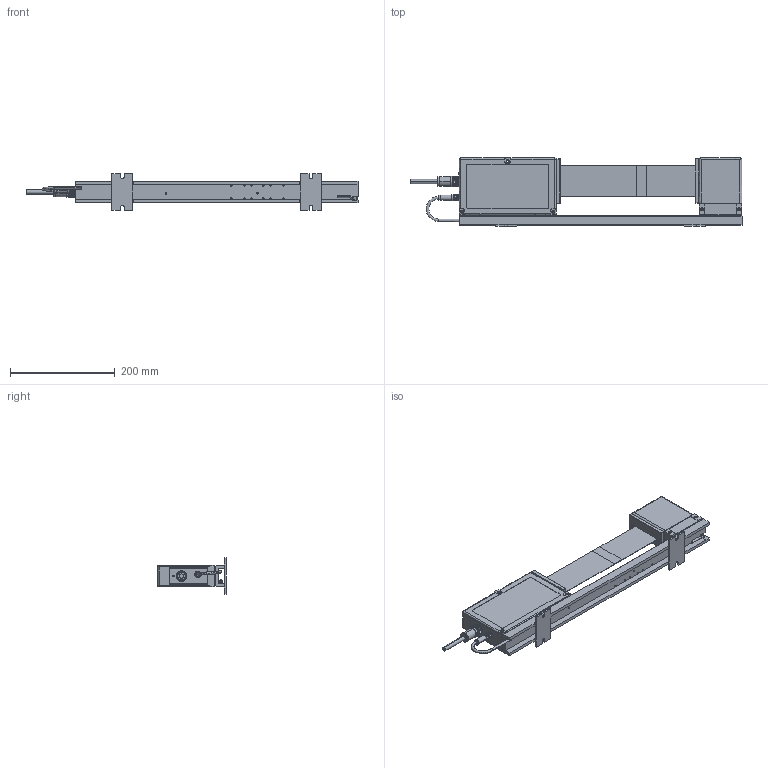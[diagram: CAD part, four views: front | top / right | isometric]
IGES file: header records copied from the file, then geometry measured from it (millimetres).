
Start section: Elysium IGES Interface
Global section: file name: 61HX:\users\kw_rdg\imaizumir\sagyou\LSM\00. 各商品\HP用\506S.igs; native system: Creo Elements/Direct Modeling 18.1C  24-Feb-2013; preprocessor: Creo Element/Direct IGES_3D V2.2; author: Unknown; organization: Unknown; date: 20150305.163038; units: millimetre
Bounding box: 633.88 x 130 x 70 mm (x, y, z)
Volume: 1429347.6 mm3; surface area: 250106.4 mm2
Topology: 8 solids, 8 shells, 1441 faces, 3376 edges, 2013 vertices
Faces by surface type: bspline 1441
